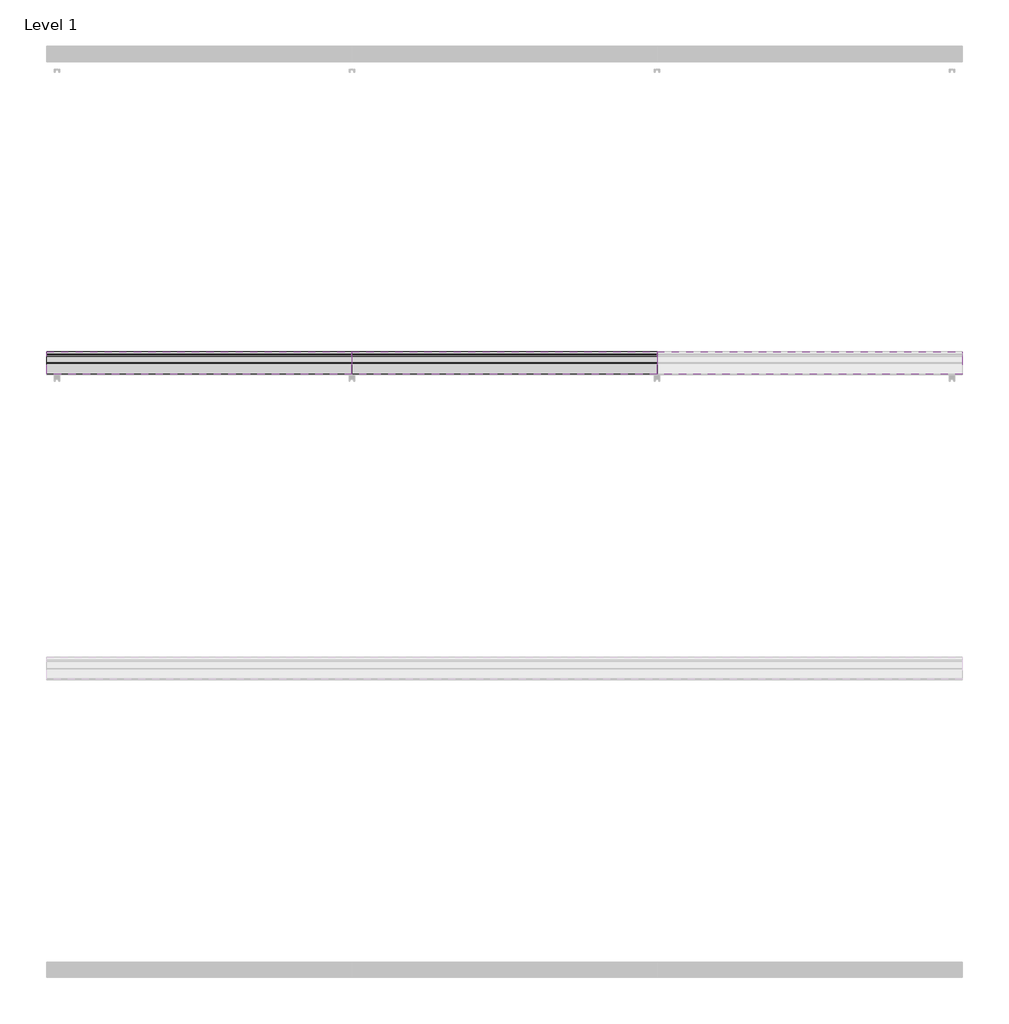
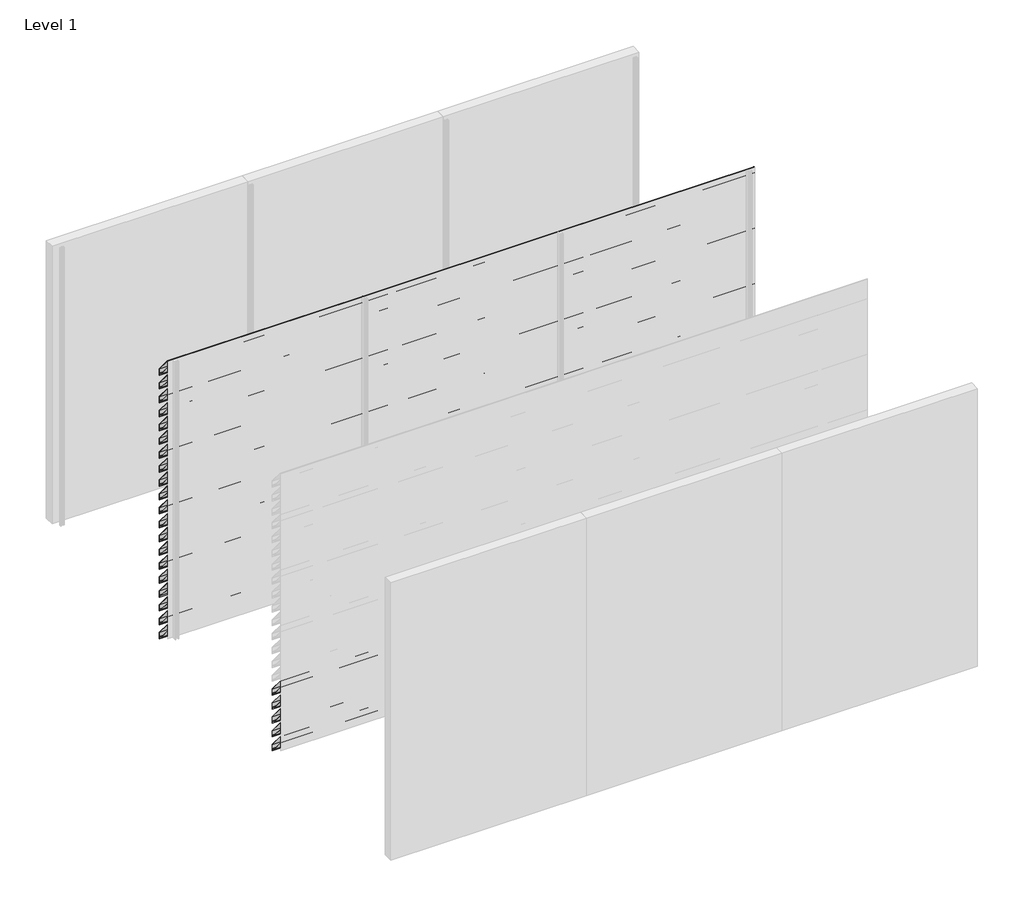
# One storey, part 13 of 16: 56 proxies.
"""IFC4 building model written with IfcOpenShell, lengths in millimetres."""

from ifc_helpers import new_model, si_unit, frame, origin, place, context, project, spatial, polyline, outline, extrude, element, save

model = new_model("IFC4")

# Units and contexts
model_context = context("Model", 3, world=origin())
ifc_project = project(units=[si_unit("LENGTHUNIT", "METRE", prefix="MILLI")], contexts=[model_context])

# Site, building, storey
site = spatial("IfcSite", under=ifc_project)
building = spatial("IfcBuilding", under=site)
storey = spatial("IfcBuildingStorey", under=building, Name="Level 1", Elevation=0.0)

# Proxies
placement = place(None, origin())
element("IfcBuildingElementProxy", 1, Name="Wall Sweeps", at=placement, inside=storey, context=model_context, shape_type="SweptSolid", body=[
    extrude(outline(polyline([(-11851.0, 2830.0), (-11851.0, 2761.0), (-11853.5, 2762.1657691), (-11853.5, 2775.7059843), (-11870.2498671, 2795.6676986), (-11880.9351065, 2795.6676986), (-11998.0, 2935.1802059), (-11998.0, 3000.0), (-11993.6469373, 3000.0), (-11851.0, 2830.0)]), holes=[polyline([(-11996.1, 2998.1), (-11996.1, 2935.8717493), (-11880.049122, 2797.5676986), (-11869.3638825, 2797.5676986), (-11852.9, 2777.9468074), (-11852.9, 2829.3084566), (-11994.5329219, 2998.1), (-11996.1, 2998.1)])]), frame((0.0, 0.0, 0.0), z_axis=(1.0, 0.0, 0.0), x_axis=(0.0, 1.0, 0.0)), (0.0, 0.0, 1.0), 2000.0),
])
element("IfcBuildingElementProxy", 2, Name="Wall Sweeps", at=placement, inside=storey, context=model_context, shape_type="SweptSolid", body=[
    extrude(outline(polyline([(-11851.0, 2680.0), (-11851.0, 2611.0), (-11853.5, 2612.1657691), (-11853.5, 2625.7059843), (-11870.2498671, 2645.6676986), (-11880.9351065, 2645.6676986), (-11998.0, 2785.1802059), (-11998.0, 2850.0), (-11993.6469373, 2850.0), (-11851.0, 2680.0)]), holes=[polyline([(-11996.1, 2848.1), (-11996.1, 2785.8717493), (-11880.049122, 2647.5676986), (-11869.3638825, 2647.5676986), (-11852.9, 2627.9468074), (-11852.9, 2679.3084566), (-11994.5329219, 2848.1), (-11996.1, 2848.1)])]), frame((0.0, 0.0, 0.0), z_axis=(1.0, 0.0, 0.0), x_axis=(0.0, 1.0, 0.0)), (0.0, 0.0, 1.0), 2000.0),
])
element("IfcBuildingElementProxy", 3, Name="Wall Sweeps", at=placement, inside=storey, context=model_context, shape_type="SweptSolid", body=[
    extrude(outline(polyline([(-11851.0, 2530.0), (-11851.0, 2461.0), (-11853.5, 2462.1657691), (-11853.5, 2475.7059843), (-11870.2498671, 2495.6676986), (-11880.9351065, 2495.6676986), (-11998.0, 2635.1802059), (-11998.0, 2700.0), (-11993.6469373, 2700.0), (-11851.0, 2530.0)]), holes=[polyline([(-11996.1, 2698.1), (-11996.1, 2635.8717493), (-11880.049122, 2497.5676986), (-11869.3638825, 2497.5676986), (-11852.9, 2477.9468074), (-11852.9, 2529.3084566), (-11994.5329219, 2698.1), (-11996.1, 2698.1)])]), frame((0.0, 0.0, 0.0), z_axis=(1.0, 0.0, 0.0), x_axis=(0.0, 1.0, 0.0)), (0.0, 0.0, 1.0), 2000.0),
])
element("IfcBuildingElementProxy", 4, Name="Wall Sweeps", at=placement, inside=storey, context=model_context, shape_type="SweptSolid", body=[
    extrude(outline(polyline([(-11851.0, 2380.0), (-11851.0, 2311.0), (-11853.5, 2312.1657691), (-11853.5, 2325.7059843), (-11870.2498671, 2345.6676986), (-11880.9351065, 2345.6676986), (-11998.0, 2485.1802059), (-11998.0, 2550.0), (-11993.6469373, 2550.0), (-11851.0, 2380.0)]), holes=[polyline([(-11996.1, 2548.1), (-11996.1, 2485.8717493), (-11880.049122, 2347.5676986), (-11869.3638825, 2347.5676986), (-11852.9, 2327.9468074), (-11852.9, 2379.3084566), (-11994.5329219, 2548.1), (-11996.1, 2548.1)])]), frame((0.0, 0.0, 0.0), z_axis=(1.0, 0.0, 0.0), x_axis=(0.0, 1.0, 0.0)), (0.0, 0.0, 1.0), 2000.0),
])
element("IfcBuildingElementProxy", 5, Name="Wall Sweeps", at=placement, inside=storey, context=model_context, shape_type="SweptSolid", body=[
    extrude(outline(polyline([(-11851.0, 2230.0), (-11851.0, 2161.0), (-11853.5, 2162.1657691), (-11853.5, 2175.7059843), (-11870.2498671, 2195.6676986), (-11880.9351065, 2195.6676986), (-11998.0, 2335.1802059), (-11998.0, 2400.0), (-11993.6469373, 2400.0), (-11851.0, 2230.0)]), holes=[polyline([(-11996.1, 2398.1), (-11996.1, 2335.8717493), (-11880.049122, 2197.5676986), (-11869.3638825, 2197.5676986), (-11852.9, 2177.9468074), (-11852.9, 2229.3084566), (-11994.5329219, 2398.1), (-11996.1, 2398.1)])]), frame((0.0, 0.0, 0.0), z_axis=(1.0, 0.0, 0.0), x_axis=(0.0, 1.0, 0.0)), (0.0, 0.0, 1.0), 2000.0),
])
element("IfcBuildingElementProxy", 6, Name="Wall Sweeps", at=placement, inside=storey, context=model_context, shape_type="SweptSolid", body=[
    extrude(outline(polyline([(-11851.0, 2080.0), (-11851.0, 2011.0), (-11853.5, 2012.1657691), (-11853.5, 2025.7059843), (-11870.2498671, 2045.6676986), (-11880.9351065, 2045.6676986), (-11998.0, 2185.1802059), (-11998.0, 2250.0), (-11993.6469373, 2250.0), (-11851.0, 2080.0)]), holes=[polyline([(-11996.1, 2248.1), (-11996.1, 2185.8717493), (-11880.049122, 2047.5676986), (-11869.3638825, 2047.5676986), (-11852.9, 2027.9468074), (-11852.9, 2079.3084566), (-11994.5329219, 2248.1), (-11996.1, 2248.1)])]), frame((0.0, 0.0, 0.0), z_axis=(1.0, 0.0, 0.0), x_axis=(0.0, 1.0, 0.0)), (0.0, 0.0, 1.0), 2000.0),
])
element("IfcBuildingElementProxy", 7, Name="Wall Sweeps", at=placement, inside=storey, context=model_context, shape_type="SweptSolid", body=[
    extrude(outline(polyline([(-11851.0, 1930.0), (-11851.0, 1861.0), (-11853.5, 1862.1657691), (-11853.5, 1875.7059843), (-11870.2498671, 1895.6676986), (-11880.9351065, 1895.6676986), (-11998.0, 2035.1802059), (-11998.0, 2100.0), (-11993.6469373, 2100.0), (-11851.0, 1930.0)]), holes=[polyline([(-11996.1, 2098.1), (-11996.1, 2035.8717493), (-11880.049122, 1897.5676986), (-11869.3638825, 1897.5676986), (-11852.9, 1877.9468074), (-11852.9, 1929.3084566), (-11994.5329219, 2098.1), (-11996.1, 2098.1)])]), frame((0.0, 0.0, 0.0), z_axis=(1.0, 0.0, 0.0), x_axis=(0.0, 1.0, 0.0)), (0.0, 0.0, 1.0), 2000.0),
])
element("IfcBuildingElementProxy", 8, Name="Wall Sweeps", at=placement, inside=storey, context=model_context, shape_type="SweptSolid", body=[
    extrude(outline(polyline([(-11851.0, 1780.0), (-11851.0, 1711.0), (-11853.5, 1712.1657691), (-11853.5, 1725.7059843), (-11870.2498671, 1745.6676986), (-11880.9351065, 1745.6676986), (-11998.0, 1885.1802059), (-11998.0, 1950.0), (-11993.6469373, 1950.0), (-11851.0, 1780.0)]), holes=[polyline([(-11996.1, 1948.1), (-11996.1, 1885.8717493), (-11880.049122, 1747.5676986), (-11869.3638825, 1747.5676986), (-11852.9, 1727.9468074), (-11852.9, 1779.3084566), (-11994.5329219, 1948.1), (-11996.1, 1948.1)])]), frame((0.0, 0.0, 0.0), z_axis=(1.0, 0.0, 0.0), x_axis=(0.0, 1.0, 0.0)), (0.0, 0.0, 1.0), 2000.0),
])
element("IfcBuildingElementProxy", 9, Name="Wall Sweeps", at=placement, inside=storey, context=model_context, shape_type="SweptSolid", body=[
    extrude(outline(polyline([(-11851.0, 1630.0), (-11851.0, 1561.0), (-11853.5, 1562.1657691), (-11853.5, 1575.7059843), (-11870.2498671, 1595.6676986), (-11880.9351065, 1595.6676986), (-11998.0, 1735.1802059), (-11998.0, 1800.0), (-11993.6469373, 1800.0), (-11851.0, 1630.0)]), holes=[polyline([(-11996.1, 1798.1), (-11996.1, 1735.8717493), (-11880.049122, 1597.5676986), (-11869.3638825, 1597.5676986), (-11852.9, 1577.9468074), (-11852.9, 1629.3084566), (-11994.5329219, 1798.1), (-11996.1, 1798.1)])]), frame((0.0, 0.0, 0.0), z_axis=(1.0, 0.0, 0.0), x_axis=(0.0, 1.0, 0.0)), (0.0, 0.0, 1.0), 2000.0),
])
element("IfcBuildingElementProxy", 10, Name="Wall Sweeps", at=placement, inside=storey, context=model_context, shape_type="SweptSolid", body=[
    extrude(outline(polyline([(-11851.0, 1480.0), (-11851.0, 1411.0), (-11853.5, 1412.1657691), (-11853.5, 1425.7059843), (-11870.2498671, 1445.6676986), (-11880.9351065, 1445.6676986), (-11998.0, 1585.1802059), (-11998.0, 1650.0), (-11993.6469373, 1650.0), (-11851.0, 1480.0)]), holes=[polyline([(-11996.1, 1648.1), (-11996.1, 1585.8717493), (-11880.049122, 1447.5676986), (-11869.3638825, 1447.5676986), (-11852.9, 1427.9468074), (-11852.9, 1479.3084566), (-11994.5329219, 1648.1), (-11996.1, 1648.1)])]), frame((0.0, 0.0, 0.0), z_axis=(1.0, 0.0, 0.0), x_axis=(0.0, 1.0, 0.0)), (0.0, 0.0, 1.0), 2000.0),
])
element("IfcBuildingElementProxy", 11, Name="Wall Sweeps", at=placement, inside=storey, context=model_context, shape_type="SweptSolid", body=[
    extrude(outline(polyline([(-11851.0, 1330.0), (-11851.0, 1261.0), (-11853.5, 1262.1657691), (-11853.5, 1275.7059843), (-11870.2498671, 1295.6676986), (-11880.9351065, 1295.6676986), (-11998.0, 1435.1802059), (-11998.0, 1500.0), (-11993.6469373, 1500.0), (-11851.0, 1330.0)]), holes=[polyline([(-11996.1, 1498.1), (-11996.1, 1435.8717493), (-11880.049122, 1297.5676986), (-11869.3638825, 1297.5676986), (-11852.9, 1277.9468074), (-11852.9, 1329.3084566), (-11994.5329219, 1498.1), (-11996.1, 1498.1)])]), frame((0.0, 0.0, 0.0), z_axis=(1.0, 0.0, 0.0), x_axis=(0.0, 1.0, 0.0)), (0.0, 0.0, 1.0), 2000.0),
])
element("IfcBuildingElementProxy", 12, Name="Wall Sweeps", at=placement, inside=storey, context=model_context, shape_type="SweptSolid", body=[
    extrude(outline(polyline([(-11851.0, 1180.0), (-11851.0, 1111.0), (-11853.5, 1112.1657691), (-11853.5, 1125.7059843), (-11870.2498671, 1145.6676986), (-11880.9351065, 1145.6676986), (-11998.0, 1285.1802059), (-11998.0, 1350.0), (-11993.6469373, 1350.0), (-11851.0, 1180.0)]), holes=[polyline([(-11996.1, 1348.1), (-11996.1, 1285.8717493), (-11880.049122, 1147.5676986), (-11869.3638825, 1147.5676986), (-11852.9, 1127.9468074), (-11852.9, 1179.3084566), (-11994.5329219, 1348.1), (-11996.1, 1348.1)])]), frame((0.0, 0.0, 0.0), z_axis=(1.0, 0.0, 0.0), x_axis=(0.0, 1.0, 0.0)), (0.0, 0.0, 1.0), 2000.0),
])
element("IfcBuildingElementProxy", 13, Name="Wall Sweeps", at=placement, inside=storey, context=model_context, shape_type="SweptSolid", body=[
    extrude(outline(polyline([(-11851.0, 1030.0), (-11851.0, 961.0), (-11853.5, 962.1657691), (-11853.5, 975.7059843), (-11870.2498671, 995.6676986), (-11880.9351065, 995.6676986), (-11998.0, 1135.1802059), (-11998.0, 1200.0), (-11993.6469373, 1200.0), (-11851.0, 1030.0)]), holes=[polyline([(-11996.1, 1198.1), (-11996.1, 1135.8717493), (-11880.049122, 997.5676986), (-11869.3638825, 997.5676986), (-11852.9, 977.9468074), (-11852.9, 1029.3084566), (-11994.5329219, 1198.1), (-11996.1, 1198.1)])]), frame((0.0, 0.0, 0.0), z_axis=(1.0, 0.0, 0.0), x_axis=(0.0, 1.0, 0.0)), (0.0, 0.0, 1.0), 2000.0),
])
element("IfcBuildingElementProxy", 14, Name="Wall Sweeps", at=placement, inside=storey, context=model_context, shape_type="SweptSolid", body=[
    extrude(outline(polyline([(-11851.0, 880.0), (-11851.0, 811.0), (-11853.5, 812.1657691), (-11853.5, 825.7059843), (-11870.2498671, 845.6676986), (-11880.9351065, 845.6676986), (-11998.0, 985.1802059), (-11998.0, 1050.0), (-11993.6469373, 1050.0), (-11851.0, 880.0)]), holes=[polyline([(-11996.1, 1048.1), (-11996.1, 985.8717493), (-11880.049122, 847.5676986), (-11869.3638825, 847.5676986), (-11852.9, 827.9468074), (-11852.9, 879.3084566), (-11994.5329219, 1048.1), (-11996.1, 1048.1)])]), frame((0.0, 0.0, 0.0), z_axis=(1.0, 0.0, 0.0), x_axis=(0.0, 1.0, 0.0)), (0.0, 0.0, 1.0), 2000.0),
])
element("IfcBuildingElementProxy", 15, Name="Wall Sweeps", at=placement, inside=storey, context=model_context, shape_type="SweptSolid", body=[
    extrude(outline(polyline([(-11851.0, 730.0), (-11851.0, 661.0), (-11853.5, 662.1657691), (-11853.5, 675.7059843), (-11870.2498671, 695.6676986), (-11880.9351065, 695.6676986), (-11998.0, 835.1802059), (-11998.0, 900.0), (-11993.6469373, 900.0), (-11851.0, 730.0)]), holes=[polyline([(-11996.1, 898.1), (-11996.1, 835.8717493), (-11880.049122, 697.5676986), (-11869.3638825, 697.5676986), (-11852.9, 677.9468074), (-11852.9, 729.3084566), (-11994.5329219, 898.1), (-11996.1, 898.1)])]), frame((0.0, 0.0, 0.0), z_axis=(1.0, 0.0, 0.0), x_axis=(0.0, 1.0, 0.0)), (0.0, 0.0, 1.0), 2000.0),
])
element("IfcBuildingElementProxy", 16, Name="Wall Sweeps", at=placement, inside=storey, context=model_context, shape_type="SweptSolid", body=[
    extrude(outline(polyline([(-11851.0, 580.0), (-11851.0, 511.0), (-11853.5, 512.1657691), (-11853.5, 525.7059843), (-11870.2498671, 545.6676986), (-11880.9351065, 545.6676986), (-11998.0, 685.1802059), (-11998.0, 750.0), (-11993.6469373, 750.0), (-11851.0, 580.0)]), holes=[polyline([(-11996.1, 748.1), (-11996.1, 685.8717493), (-11880.049122, 547.5676986), (-11869.3638825, 547.5676986), (-11852.9, 527.9468074), (-11852.9, 579.3084566), (-11994.5329219, 748.1), (-11996.1, 748.1)])]), frame((0.0, 0.0, 0.0), z_axis=(1.0, 0.0, 0.0), x_axis=(0.0, 1.0, 0.0)), (0.0, 0.0, 1.0), 2000.0),
])
element("IfcBuildingElementProxy", 17, Name="Wall Sweeps", at=placement, inside=storey, context=model_context, shape_type="SweptSolid", body=[
    extrude(outline(polyline([(-11851.0, 430.0), (-11851.0, 361.0), (-11853.5, 362.1657691), (-11853.5, 375.7059843), (-11870.2498671, 395.6676986), (-11880.9351065, 395.6676986), (-11998.0, 535.1802059), (-11998.0, 600.0), (-11993.6469373, 600.0), (-11851.0, 430.0)]), holes=[polyline([(-11996.1, 598.1), (-11996.1, 535.8717493), (-11880.049122, 397.5676986), (-11869.3638825, 397.5676986), (-11852.9, 377.9468074), (-11852.9, 429.3084566), (-11994.5329219, 598.1), (-11996.1, 598.1)])]), frame((0.0, 0.0, 0.0), z_axis=(1.0, 0.0, 0.0), x_axis=(0.0, 1.0, 0.0)), (0.0, 0.0, 1.0), 2000.0),
])
element("IfcBuildingElementProxy", 18, Name="Wall Sweeps", at=placement, inside=storey, context=model_context, shape_type="SweptSolid", body=[
    extrude(outline(polyline([(-11851.0, 280.0), (-11851.0, 211.0), (-11853.5, 212.1657691), (-11853.5, 225.7059843), (-11870.2498671, 245.6676986), (-11880.9351065, 245.6676986), (-11998.0, 385.1802059), (-11998.0, 450.0), (-11993.6469373, 450.0), (-11851.0, 280.0)]), holes=[polyline([(-11996.1, 448.1), (-11996.1, 385.8717493), (-11880.049122, 247.5676986), (-11869.3638825, 247.5676986), (-11852.9, 227.9468074), (-11852.9, 279.3084566), (-11994.5329219, 448.1), (-11996.1, 448.1)])]), frame((0.0, 0.0, 0.0), z_axis=(1.0, 0.0, 0.0), x_axis=(0.0, 1.0, 0.0)), (0.0, 0.0, 1.0), 2000.0),
])
element("IfcBuildingElementProxy", 19, Name="Wall Sweeps", at=placement, inside=storey, context=model_context, shape_type="SweptSolid", body=[
    extrude(outline(polyline([(-11851.0, 130.0), (-11851.0, 61.0), (-11853.5, 62.1657691), (-11853.5, 75.7059843), (-11870.2498671, 95.6676986), (-11880.9351065, 95.6676986), (-11998.0, 235.1802059), (-11998.0, 300.0), (-11993.6469373, 300.0), (-11851.0, 130.0)]), holes=[polyline([(-11996.1, 298.1), (-11996.1, 235.8717493), (-11880.049122, 97.5676986), (-11869.3638825, 97.5676986), (-11852.9, 77.9468074), (-11852.9, 129.3084566), (-11994.5329219, 298.1), (-11996.1, 298.1)])]), frame((0.0, 0.0, 0.0), z_axis=(1.0, 0.0, 0.0), x_axis=(0.0, 1.0, 0.0)), (0.0, 0.0, 1.0), 2000.0),
])
element("IfcBuildingElementProxy", 20, Name="Wall Sweeps", at=placement, inside=storey, context=model_context, shape_type="SweptSolid", body=[
    extrude(outline(polyline([(-11851.0, -20.0), (-11851.0, -89.0), (-11853.5, -87.8342309), (-11853.5, -74.2940157), (-11870.2498671, -54.3323014), (-11880.9351065, -54.3323014), (-11998.0, 85.1802059), (-11998.0, 150.0), (-11993.6469373, 150.0), (-11851.0, -20.0)]), holes=[polyline([(-11996.1, 148.1), (-11996.1, 85.8717493), (-11880.049122, -52.4323014), (-11869.3638825, -52.4323014), (-11852.9, -72.0531926), (-11852.9, -20.6915434), (-11994.5329219, 148.1), (-11996.1, 148.1)])]), frame((0.0, 0.0, 0.0), z_axis=(1.0, 0.0, 0.0), x_axis=(0.0, 1.0, 0.0)), (0.0, 0.0, 1.0), 2000.0),
])
element("IfcBuildingElementProxy", 21, Name="Wall Sweeps", at=placement, inside=storey, context=model_context, shape_type="SweptSolid", body=[
    extrude(outline(polyline([(-11851.0, 2830.0), (-11851.0, 2761.0), (-11853.5, 2762.1657691), (-11853.5, 2775.7059843), (-11870.2498671, 2795.6676986), (-11880.9351065, 2795.6676986), (-11998.0, 2935.1802059), (-11998.0, 3000.0), (-11993.6469373, 3000.0), (-11851.0, 2830.0)]), holes=[polyline([(-11996.1, 2998.1), (-11996.1, 2935.8717493), (-11880.049122, 2797.5676986), (-11869.3638825, 2797.5676986), (-11852.9, 2777.9468074), (-11852.9, 2829.3084566), (-11994.5329219, 2998.1), (-11996.1, 2998.1)])]), frame((2000.0, 0.0, 0.0), z_axis=(1.0, 0.0, 0.0), x_axis=(0.0, 1.0, 0.0)), (0.0, 0.0, 1.0), 2000.0),
])
element("IfcBuildingElementProxy", 22, Name="Wall Sweeps", at=placement, inside=storey, context=model_context, shape_type="SweptSolid", body=[
    extrude(outline(polyline([(-11851.0, 2680.0), (-11851.0, 2611.0), (-11853.5, 2612.1657691), (-11853.5, 2625.7059843), (-11870.2498671, 2645.6676986), (-11880.9351065, 2645.6676986), (-11998.0, 2785.1802059), (-11998.0, 2850.0), (-11993.6469373, 2850.0), (-11851.0, 2680.0)]), holes=[polyline([(-11996.1, 2848.1), (-11996.1, 2785.8717493), (-11880.049122, 2647.5676986), (-11869.3638825, 2647.5676986), (-11852.9, 2627.9468074), (-11852.9, 2679.3084566), (-11994.5329219, 2848.1), (-11996.1, 2848.1)])]), frame((2000.0, 0.0, 0.0), z_axis=(1.0, 0.0, 0.0), x_axis=(0.0, 1.0, 0.0)), (0.0, 0.0, 1.0), 2000.0),
])
element("IfcBuildingElementProxy", 23, Name="Wall Sweeps", at=placement, inside=storey, context=model_context, shape_type="SweptSolid", body=[
    extrude(outline(polyline([(-11851.0, 2530.0), (-11851.0, 2461.0), (-11853.5, 2462.1657691), (-11853.5, 2475.7059843), (-11870.2498671, 2495.6676986), (-11880.9351065, 2495.6676986), (-11998.0, 2635.1802059), (-11998.0, 2700.0), (-11993.6469373, 2700.0), (-11851.0, 2530.0)]), holes=[polyline([(-11996.1, 2698.1), (-11996.1, 2635.8717493), (-11880.049122, 2497.5676986), (-11869.3638825, 2497.5676986), (-11852.9, 2477.9468074), (-11852.9, 2529.3084566), (-11994.5329219, 2698.1), (-11996.1, 2698.1)])]), frame((2000.0, 0.0, 0.0), z_axis=(1.0, 0.0, 0.0), x_axis=(0.0, 1.0, 0.0)), (0.0, 0.0, 1.0), 2000.0),
])
element("IfcBuildingElementProxy", 24, Name="Wall Sweeps", at=placement, inside=storey, context=model_context, shape_type="SweptSolid", body=[
    extrude(outline(polyline([(-11851.0, 2380.0), (-11851.0, 2311.0), (-11853.5, 2312.1657691), (-11853.5, 2325.7059843), (-11870.2498671, 2345.6676986), (-11880.9351065, 2345.6676986), (-11998.0, 2485.1802059), (-11998.0, 2550.0), (-11993.6469373, 2550.0), (-11851.0, 2380.0)]), holes=[polyline([(-11996.1, 2548.1), (-11996.1, 2485.8717493), (-11880.049122, 2347.5676986), (-11869.3638825, 2347.5676986), (-11852.9, 2327.9468074), (-11852.9, 2379.3084566), (-11994.5329219, 2548.1), (-11996.1, 2548.1)])]), frame((2000.0, 0.0, 0.0), z_axis=(1.0, 0.0, 0.0), x_axis=(0.0, 1.0, 0.0)), (0.0, 0.0, 1.0), 2000.0),
])
element("IfcBuildingElementProxy", 25, Name="Wall Sweeps", at=placement, inside=storey, context=model_context, shape_type="SweptSolid", body=[
    extrude(outline(polyline([(-11851.0, 2230.0), (-11851.0, 2161.0), (-11853.5, 2162.1657691), (-11853.5, 2175.7059843), (-11870.2498671, 2195.6676986), (-11880.9351065, 2195.6676986), (-11998.0, 2335.1802059), (-11998.0, 2400.0), (-11993.6469373, 2400.0), (-11851.0, 2230.0)]), holes=[polyline([(-11996.1, 2398.1), (-11996.1, 2335.8717493), (-11880.049122, 2197.5676986), (-11869.3638825, 2197.5676986), (-11852.9, 2177.9468074), (-11852.9, 2229.3084566), (-11994.5329219, 2398.1), (-11996.1, 2398.1)])]), frame((2000.0, 0.0, 0.0), z_axis=(1.0, 0.0, 0.0), x_axis=(0.0, 1.0, 0.0)), (0.0, 0.0, 1.0), 2000.0),
])
element("IfcBuildingElementProxy", 26, Name="Wall Sweeps", at=placement, inside=storey, context=model_context, shape_type="SweptSolid", body=[
    extrude(outline(polyline([(-11851.0, 2080.0), (-11851.0, 2011.0), (-11853.5, 2012.1657691), (-11853.5, 2025.7059843), (-11870.2498671, 2045.6676986), (-11880.9351065, 2045.6676986), (-11998.0, 2185.1802059), (-11998.0, 2250.0), (-11993.6469373, 2250.0), (-11851.0, 2080.0)]), holes=[polyline([(-11996.1, 2248.1), (-11996.1, 2185.8717493), (-11880.049122, 2047.5676986), (-11869.3638825, 2047.5676986), (-11852.9, 2027.9468074), (-11852.9, 2079.3084566), (-11994.5329219, 2248.1), (-11996.1, 2248.1)])]), frame((2000.0, 0.0, 0.0), z_axis=(1.0, 0.0, 0.0), x_axis=(0.0, 1.0, 0.0)), (0.0, 0.0, 1.0), 2000.0),
])
element("IfcBuildingElementProxy", 27, Name="Wall Sweeps", at=placement, inside=storey, context=model_context, shape_type="SweptSolid", body=[
    extrude(outline(polyline([(-11851.0, 1930.0), (-11851.0, 1861.0), (-11853.5, 1862.1657691), (-11853.5, 1875.7059843), (-11870.2498671, 1895.6676986), (-11880.9351065, 1895.6676986), (-11998.0, 2035.1802059), (-11998.0, 2100.0), (-11993.6469373, 2100.0), (-11851.0, 1930.0)]), holes=[polyline([(-11996.1, 2098.1), (-11996.1, 2035.8717493), (-11880.049122, 1897.5676986), (-11869.3638825, 1897.5676986), (-11852.9, 1877.9468074), (-11852.9, 1929.3084566), (-11994.5329219, 2098.1), (-11996.1, 2098.1)])]), frame((2000.0, 0.0, 0.0), z_axis=(1.0, 0.0, 0.0), x_axis=(0.0, 1.0, 0.0)), (0.0, 0.0, 1.0), 2000.0),
])
element("IfcBuildingElementProxy", 28, Name="Wall Sweeps", at=placement, inside=storey, context=model_context, shape_type="SweptSolid", body=[
    extrude(outline(polyline([(-11851.0, 1780.0), (-11851.0, 1711.0), (-11853.5, 1712.1657691), (-11853.5, 1725.7059843), (-11870.2498671, 1745.6676986), (-11880.9351065, 1745.6676986), (-11998.0, 1885.1802059), (-11998.0, 1950.0), (-11993.6469373, 1950.0), (-11851.0, 1780.0)]), holes=[polyline([(-11996.1, 1948.1), (-11996.1, 1885.8717493), (-11880.049122, 1747.5676986), (-11869.3638825, 1747.5676986), (-11852.9, 1727.9468074), (-11852.9, 1779.3084566), (-11994.5329219, 1948.1), (-11996.1, 1948.1)])]), frame((2000.0, 0.0, 0.0), z_axis=(1.0, 0.0, 0.0), x_axis=(0.0, 1.0, 0.0)), (0.0, 0.0, 1.0), 2000.0),
])
element("IfcBuildingElementProxy", 29, Name="Wall Sweeps", at=placement, inside=storey, context=model_context, shape_type="SweptSolid", body=[
    extrude(outline(polyline([(-11851.0, 1630.0), (-11851.0, 1561.0), (-11853.5, 1562.1657691), (-11853.5, 1575.7059843), (-11870.2498671, 1595.6676986), (-11880.9351065, 1595.6676986), (-11998.0, 1735.1802059), (-11998.0, 1800.0), (-11993.6469373, 1800.0), (-11851.0, 1630.0)]), holes=[polyline([(-11996.1, 1798.1), (-11996.1, 1735.8717493), (-11880.049122, 1597.5676986), (-11869.3638825, 1597.5676986), (-11852.9, 1577.9468074), (-11852.9, 1629.3084566), (-11994.5329219, 1798.1), (-11996.1, 1798.1)])]), frame((2000.0, 0.0, 0.0), z_axis=(1.0, 0.0, 0.0), x_axis=(0.0, 1.0, 0.0)), (0.0, 0.0, 1.0), 2000.0),
])
element("IfcBuildingElementProxy", 30, Name="Wall Sweeps", at=placement, inside=storey, context=model_context, shape_type="SweptSolid", body=[
    extrude(outline(polyline([(-11851.0, 1480.0), (-11851.0, 1411.0), (-11853.5, 1412.1657691), (-11853.5, 1425.7059843), (-11870.2498671, 1445.6676986), (-11880.9351065, 1445.6676986), (-11998.0, 1585.1802059), (-11998.0, 1650.0), (-11993.6469373, 1650.0), (-11851.0, 1480.0)]), holes=[polyline([(-11996.1, 1648.1), (-11996.1, 1585.8717493), (-11880.049122, 1447.5676986), (-11869.3638825, 1447.5676986), (-11852.9, 1427.9468074), (-11852.9, 1479.3084566), (-11994.5329219, 1648.1), (-11996.1, 1648.1)])]), frame((2000.0, 0.0, 0.0), z_axis=(1.0, 0.0, 0.0), x_axis=(0.0, 1.0, 0.0)), (0.0, 0.0, 1.0), 2000.0),
])
element("IfcBuildingElementProxy", 31, Name="Wall Sweeps", at=placement, inside=storey, context=model_context, shape_type="SweptSolid", body=[
    extrude(outline(polyline([(-11851.0, 1330.0), (-11851.0, 1261.0), (-11853.5, 1262.1657691), (-11853.5, 1275.7059843), (-11870.2498671, 1295.6676986), (-11880.9351065, 1295.6676986), (-11998.0, 1435.1802059), (-11998.0, 1500.0), (-11993.6469373, 1500.0), (-11851.0, 1330.0)]), holes=[polyline([(-11996.1, 1498.1), (-11996.1, 1435.8717493), (-11880.049122, 1297.5676986), (-11869.3638825, 1297.5676986), (-11852.9, 1277.9468074), (-11852.9, 1329.3084566), (-11994.5329219, 1498.1), (-11996.1, 1498.1)])]), frame((2000.0, 0.0, 0.0), z_axis=(1.0, 0.0, 0.0), x_axis=(0.0, 1.0, 0.0)), (0.0, 0.0, 1.0), 2000.0),
])
element("IfcBuildingElementProxy", 32, Name="Wall Sweeps", at=placement, inside=storey, context=model_context, shape_type="SweptSolid", body=[
    extrude(outline(polyline([(-11851.0, 1180.0), (-11851.0, 1111.0), (-11853.5, 1112.1657691), (-11853.5, 1125.7059843), (-11870.2498671, 1145.6676986), (-11880.9351065, 1145.6676986), (-11998.0, 1285.1802059), (-11998.0, 1350.0), (-11993.6469373, 1350.0), (-11851.0, 1180.0)]), holes=[polyline([(-11996.1, 1348.1), (-11996.1, 1285.8717493), (-11880.049122, 1147.5676986), (-11869.3638825, 1147.5676986), (-11852.9, 1127.9468074), (-11852.9, 1179.3084566), (-11994.5329219, 1348.1), (-11996.1, 1348.1)])]), frame((2000.0, 0.0, 0.0), z_axis=(1.0, 0.0, 0.0), x_axis=(0.0, 1.0, 0.0)), (0.0, 0.0, 1.0), 2000.0),
])
element("IfcBuildingElementProxy", 33, Name="Wall Sweeps", at=placement, inside=storey, context=model_context, shape_type="SweptSolid", body=[
    extrude(outline(polyline([(-11851.0, 1030.0), (-11851.0, 961.0), (-11853.5, 962.1657691), (-11853.5, 975.7059843), (-11870.2498671, 995.6676986), (-11880.9351065, 995.6676986), (-11998.0, 1135.1802059), (-11998.0, 1200.0), (-11993.6469373, 1200.0), (-11851.0, 1030.0)]), holes=[polyline([(-11996.1, 1198.1), (-11996.1, 1135.8717493), (-11880.049122, 997.5676986), (-11869.3638825, 997.5676986), (-11852.9, 977.9468074), (-11852.9, 1029.3084566), (-11994.5329219, 1198.1), (-11996.1, 1198.1)])]), frame((2000.0, 0.0, 0.0), z_axis=(1.0, 0.0, 0.0), x_axis=(0.0, 1.0, 0.0)), (0.0, 0.0, 1.0), 2000.0),
])
element("IfcBuildingElementProxy", 34, Name="Wall Sweeps", at=placement, inside=storey, context=model_context, shape_type="SweptSolid", body=[
    extrude(outline(polyline([(-11851.0, 880.0), (-11851.0, 811.0), (-11853.5, 812.1657691), (-11853.5, 825.7059843), (-11870.2498671, 845.6676986), (-11880.9351065, 845.6676986), (-11998.0, 985.1802059), (-11998.0, 1050.0), (-11993.6469373, 1050.0), (-11851.0, 880.0)]), holes=[polyline([(-11996.1, 1048.1), (-11996.1, 985.8717493), (-11880.049122, 847.5676986), (-11869.3638825, 847.5676986), (-11852.9, 827.9468074), (-11852.9, 879.3084566), (-11994.5329219, 1048.1), (-11996.1, 1048.1)])]), frame((2000.0, 0.0, 0.0), z_axis=(1.0, 0.0, 0.0), x_axis=(0.0, 1.0, 0.0)), (0.0, 0.0, 1.0), 2000.0),
])
element("IfcBuildingElementProxy", 35, Name="Wall Sweeps", at=placement, inside=storey, context=model_context, shape_type="SweptSolid", body=[
    extrude(outline(polyline([(-11851.0, 730.0), (-11851.0, 661.0), (-11853.5, 662.1657691), (-11853.5, 675.7059843), (-11870.2498671, 695.6676986), (-11880.9351065, 695.6676986), (-11998.0, 835.1802059), (-11998.0, 900.0), (-11993.6469373, 900.0), (-11851.0, 730.0)]), holes=[polyline([(-11996.1, 898.1), (-11996.1, 835.8717493), (-11880.049122, 697.5676986), (-11869.3638825, 697.5676986), (-11852.9, 677.9468074), (-11852.9, 729.3084566), (-11994.5329219, 898.1), (-11996.1, 898.1)])]), frame((2000.0, 0.0, 0.0), z_axis=(1.0, 0.0, 0.0), x_axis=(0.0, 1.0, 0.0)), (0.0, 0.0, 1.0), 2000.0),
])
element("IfcBuildingElementProxy", 36, Name="Wall Sweeps", at=placement, inside=storey, context=model_context, shape_type="SweptSolid", body=[
    extrude(outline(polyline([(-11851.0, 580.0), (-11851.0, 511.0), (-11853.5, 512.1657691), (-11853.5, 525.7059843), (-11870.2498671, 545.6676986), (-11880.9351065, 545.6676986), (-11998.0, 685.1802059), (-11998.0, 750.0), (-11993.6469373, 750.0), (-11851.0, 580.0)]), holes=[polyline([(-11996.1, 748.1), (-11996.1, 685.8717493), (-11880.049122, 547.5676986), (-11869.3638825, 547.5676986), (-11852.9, 527.9468074), (-11852.9, 579.3084566), (-11994.5329219, 748.1), (-11996.1, 748.1)])]), frame((2000.0, 0.0, 0.0), z_axis=(1.0, 0.0, 0.0), x_axis=(0.0, 1.0, 0.0)), (0.0, 0.0, 1.0), 2000.0),
])
element("IfcBuildingElementProxy", 37, Name="Wall Sweeps", at=placement, inside=storey, context=model_context, shape_type="SweptSolid", body=[
    extrude(outline(polyline([(-11851.0, 430.0), (-11851.0, 361.0), (-11853.5, 362.1657691), (-11853.5, 375.7059843), (-11870.2498671, 395.6676986), (-11880.9351065, 395.6676986), (-11998.0, 535.1802059), (-11998.0, 600.0), (-11993.6469373, 600.0), (-11851.0, 430.0)]), holes=[polyline([(-11996.1, 598.1), (-11996.1, 535.8717493), (-11880.049122, 397.5676986), (-11869.3638825, 397.5676986), (-11852.9, 377.9468074), (-11852.9, 429.3084566), (-11994.5329219, 598.1), (-11996.1, 598.1)])]), frame((2000.0, 0.0, 0.0), z_axis=(1.0, 0.0, 0.0), x_axis=(0.0, 1.0, 0.0)), (0.0, 0.0, 1.0), 2000.0),
])
element("IfcBuildingElementProxy", 38, Name="Wall Sweeps", at=placement, inside=storey, context=model_context, shape_type="SweptSolid", body=[
    extrude(outline(polyline([(-11851.0, 280.0), (-11851.0, 211.0), (-11853.5, 212.1657691), (-11853.5, 225.7059843), (-11870.2498671, 245.6676986), (-11880.9351065, 245.6676986), (-11998.0, 385.1802059), (-11998.0, 450.0), (-11993.6469373, 450.0), (-11851.0, 280.0)]), holes=[polyline([(-11996.1, 448.1), (-11996.1, 385.8717493), (-11880.049122, 247.5676986), (-11869.3638825, 247.5676986), (-11852.9, 227.9468074), (-11852.9, 279.3084566), (-11994.5329219, 448.1), (-11996.1, 448.1)])]), frame((2000.0, 0.0, 0.0), z_axis=(1.0, 0.0, 0.0), x_axis=(0.0, 1.0, 0.0)), (0.0, 0.0, 1.0), 2000.0),
])
element("IfcBuildingElementProxy", 39, Name="Wall Sweeps", at=placement, inside=storey, context=model_context, shape_type="SweptSolid", body=[
    extrude(outline(polyline([(-11851.0, 130.0), (-11851.0, 61.0), (-11853.5, 62.1657691), (-11853.5, 75.7059843), (-11870.2498671, 95.6676986), (-11880.9351065, 95.6676986), (-11998.0, 235.1802059), (-11998.0, 300.0), (-11993.6469373, 300.0), (-11851.0, 130.0)]), holes=[polyline([(-11996.1, 298.1), (-11996.1, 235.8717493), (-11880.049122, 97.5676986), (-11869.3638825, 97.5676986), (-11852.9, 77.9468074), (-11852.9, 129.3084566), (-11994.5329219, 298.1), (-11996.1, 298.1)])]), frame((2000.0, 0.0, 0.0), z_axis=(1.0, 0.0, 0.0), x_axis=(0.0, 1.0, 0.0)), (0.0, 0.0, 1.0), 2000.0),
])
element("IfcBuildingElementProxy", 40, Name="Wall Sweeps", at=placement, inside=storey, context=model_context, shape_type="SweptSolid", body=[
    extrude(outline(polyline([(-11851.0, -20.0), (-11851.0, -89.0), (-11853.5, -87.8342309), (-11853.5, -74.2940157), (-11870.2498671, -54.3323014), (-11880.9351065, -54.3323014), (-11998.0, 85.1802059), (-11998.0, 150.0), (-11993.6469373, 150.0), (-11851.0, -20.0)]), holes=[polyline([(-11996.1, 148.1), (-11996.1, 85.8717493), (-11880.049122, -52.4323014), (-11869.3638825, -52.4323014), (-11852.9, -72.0531926), (-11852.9, -20.6915434), (-11994.5329219, 148.1), (-11996.1, 148.1)])]), frame((2000.0, 0.0, 0.0), z_axis=(1.0, 0.0, 0.0), x_axis=(0.0, 1.0, 0.0)), (0.0, 0.0, 1.0), 2000.0),
])
element("IfcBuildingElementProxy", 41, Name="Wall Sweeps", at=placement, inside=storey, context=model_context, shape_type="SweptSolid", body=[
    extrude(outline(polyline([(-11851.0, 2830.0), (-11851.0, 2761.0), (-11853.5, 2762.1657691), (-11853.5, 2775.7059843), (-11870.2498671, 2795.6676986), (-11880.9351065, 2795.6676986), (-11998.0, 2935.1802059), (-11998.0, 3000.0), (-11993.6469373, 3000.0), (-11851.0, 2830.0)]), holes=[polyline([(-11996.1, 2998.1), (-11996.1, 2935.8717493), (-11880.049122, 2797.5676986), (-11869.3638825, 2797.5676986), (-11852.9, 2777.9468074), (-11852.9, 2829.3084566), (-11994.5329219, 2998.1), (-11996.1, 2998.1)])]), frame((4000.0, 0.0, 0.0), z_axis=(1.0, 0.0, 0.0), x_axis=(0.0, 1.0, 0.0)), (0.0, 0.0, 1.0), 2000.0),
])
element("IfcBuildingElementProxy", 42, Name="Wall Sweeps", at=placement, inside=storey, context=model_context, shape_type="SweptSolid", body=[
    extrude(outline(polyline([(-11851.0, 2680.0), (-11851.0, 2611.0), (-11853.5, 2612.1657691), (-11853.5, 2625.7059843), (-11870.2498671, 2645.6676986), (-11880.9351065, 2645.6676986), (-11998.0, 2785.1802059), (-11998.0, 2850.0), (-11993.6469373, 2850.0), (-11851.0, 2680.0)]), holes=[polyline([(-11996.1, 2848.1), (-11996.1, 2785.8717493), (-11880.049122, 2647.5676986), (-11869.3638825, 2647.5676986), (-11852.9, 2627.9468074), (-11852.9, 2679.3084566), (-11994.5329219, 2848.1), (-11996.1, 2848.1)])]), frame((4000.0, 0.0, 0.0), z_axis=(1.0, 0.0, 0.0), x_axis=(0.0, 1.0, 0.0)), (0.0, 0.0, 1.0), 2000.0),
])
element("IfcBuildingElementProxy", 43, Name="Wall Sweeps", at=placement, inside=storey, context=model_context, shape_type="SweptSolid", body=[
    extrude(outline(polyline([(-11851.0, 2530.0), (-11851.0, 2461.0), (-11853.5, 2462.1657691), (-11853.5, 2475.7059843), (-11870.2498671, 2495.6676986), (-11880.9351065, 2495.6676986), (-11998.0, 2635.1802059), (-11998.0, 2700.0), (-11993.6469373, 2700.0), (-11851.0, 2530.0)]), holes=[polyline([(-11996.1, 2698.1), (-11996.1, 2635.8717493), (-11880.049122, 2497.5676986), (-11869.3638825, 2497.5676986), (-11852.9, 2477.9468074), (-11852.9, 2529.3084566), (-11994.5329219, 2698.1), (-11996.1, 2698.1)])]), frame((4000.0, 0.0, 0.0), z_axis=(1.0, 0.0, 0.0), x_axis=(0.0, 1.0, 0.0)), (0.0, 0.0, 1.0), 2000.0),
])
element("IfcBuildingElementProxy", 44, Name="Wall Sweeps", at=placement, inside=storey, context=model_context, shape_type="SweptSolid", body=[
    extrude(outline(polyline([(-11851.0, 2380.0), (-11851.0, 2311.0), (-11853.5, 2312.1657691), (-11853.5, 2325.7059843), (-11870.2498671, 2345.6676986), (-11880.9351065, 2345.6676986), (-11998.0, 2485.1802059), (-11998.0, 2550.0), (-11993.6469373, 2550.0), (-11851.0, 2380.0)]), holes=[polyline([(-11996.1, 2548.1), (-11996.1, 2485.8717493), (-11880.049122, 2347.5676986), (-11869.3638825, 2347.5676986), (-11852.9, 2327.9468074), (-11852.9, 2379.3084566), (-11994.5329219, 2548.1), (-11996.1, 2548.1)])]), frame((4000.0, 0.0, 0.0), z_axis=(1.0, 0.0, 0.0), x_axis=(0.0, 1.0, 0.0)), (0.0, 0.0, 1.0), 2000.0),
])
element("IfcBuildingElementProxy", 45, Name="Wall Sweeps", at=placement, inside=storey, context=model_context, shape_type="SweptSolid", body=[
    extrude(outline(polyline([(-11851.0, 2230.0), (-11851.0, 2161.0), (-11853.5, 2162.1657691), (-11853.5, 2175.7059843), (-11870.2498671, 2195.6676986), (-11880.9351065, 2195.6676986), (-11998.0, 2335.1802059), (-11998.0, 2400.0), (-11993.6469373, 2400.0), (-11851.0, 2230.0)]), holes=[polyline([(-11996.1, 2398.1), (-11996.1, 2335.8717493), (-11880.049122, 2197.5676986), (-11869.3638825, 2197.5676986), (-11852.9, 2177.9468074), (-11852.9, 2229.3084566), (-11994.5329219, 2398.1), (-11996.1, 2398.1)])]), frame((4000.0, 0.0, 0.0), z_axis=(1.0, 0.0, 0.0), x_axis=(0.0, 1.0, 0.0)), (0.0, 0.0, 1.0), 2000.0),
])
element("IfcBuildingElementProxy", 46, Name="Wall Sweeps", at=placement, inside=storey, context=model_context, shape_type="SweptSolid", body=[
    extrude(outline(polyline([(-11851.0, 2080.0), (-11851.0, 2011.0), (-11853.5, 2012.1657691), (-11853.5, 2025.7059843), (-11870.2498671, 2045.6676986), (-11880.9351065, 2045.6676986), (-11998.0, 2185.1802059), (-11998.0, 2250.0), (-11993.6469373, 2250.0), (-11851.0, 2080.0)]), holes=[polyline([(-11996.1, 2248.1), (-11996.1, 2185.8717493), (-11880.049122, 2047.5676986), (-11869.3638825, 2047.5676986), (-11852.9, 2027.9468074), (-11852.9, 2079.3084566), (-11994.5329219, 2248.1), (-11996.1, 2248.1)])]), frame((4000.0, 0.0, 0.0), z_axis=(1.0, 0.0, 0.0), x_axis=(0.0, 1.0, 0.0)), (0.0, 0.0, 1.0), 2000.0),
])
element("IfcBuildingElementProxy", 47, Name="Wall Sweeps", at=placement, inside=storey, context=model_context, shape_type="SweptSolid", body=[
    extrude(outline(polyline([(-11851.0, 1930.0), (-11851.0, 1861.0), (-11853.5, 1862.1657691), (-11853.5, 1875.7059843), (-11870.2498671, 1895.6676986), (-11880.9351065, 1895.6676986), (-11998.0, 2035.1802059), (-11998.0, 2100.0), (-11993.6469373, 2100.0), (-11851.0, 1930.0)]), holes=[polyline([(-11996.1, 2098.1), (-11996.1, 2035.8717493), (-11880.049122, 1897.5676986), (-11869.3638825, 1897.5676986), (-11852.9, 1877.9468074), (-11852.9, 1929.3084566), (-11994.5329219, 2098.1), (-11996.1, 2098.1)])]), frame((4000.0, 0.0, 0.0), z_axis=(1.0, 0.0, 0.0), x_axis=(0.0, 1.0, 0.0)), (0.0, 0.0, 1.0), 2000.0),
])
element("IfcBuildingElementProxy", 48, Name="Wall Sweeps", at=placement, inside=storey, context=model_context, shape_type="SweptSolid", body=[
    extrude(outline(polyline([(-11851.0, 1780.0), (-11851.0, 1711.0), (-11853.5, 1712.1657691), (-11853.5, 1725.7059843), (-11870.2498671, 1745.6676986), (-11880.9351065, 1745.6676986), (-11998.0, 1885.1802059), (-11998.0, 1950.0), (-11993.6469373, 1950.0), (-11851.0, 1780.0)]), holes=[polyline([(-11996.1, 1948.1), (-11996.1, 1885.8717493), (-11880.049122, 1747.5676986), (-11869.3638825, 1747.5676986), (-11852.9, 1727.9468074), (-11852.9, 1779.3084566), (-11994.5329219, 1948.1), (-11996.1, 1948.1)])]), frame((4000.0, 0.0, 0.0), z_axis=(1.0, 0.0, 0.0), x_axis=(0.0, 1.0, 0.0)), (0.0, 0.0, 1.0), 2000.0),
])
element("IfcBuildingElementProxy", 49, Name="Wall Sweeps", at=placement, inside=storey, context=model_context, shape_type="SweptSolid", body=[
    extrude(outline(polyline([(-11851.0, 1630.0), (-11851.0, 1561.0), (-11853.5, 1562.1657691), (-11853.5, 1575.7059843), (-11870.2498671, 1595.6676986), (-11880.9351065, 1595.6676986), (-11998.0, 1735.1802059), (-11998.0, 1800.0), (-11993.6469373, 1800.0), (-11851.0, 1630.0)]), holes=[polyline([(-11996.1, 1798.1), (-11996.1, 1735.8717493), (-11880.049122, 1597.5676986), (-11869.3638825, 1597.5676986), (-11852.9, 1577.9468074), (-11852.9, 1629.3084566), (-11994.5329219, 1798.1), (-11996.1, 1798.1)])]), frame((4000.0, 0.0, 0.0), z_axis=(1.0, 0.0, 0.0), x_axis=(0.0, 1.0, 0.0)), (0.0, 0.0, 1.0), 2000.0),
])
element("IfcBuildingElementProxy", 50, Name="Wall Sweeps", at=placement, inside=storey, context=model_context, shape_type="SweptSolid", body=[
    extrude(outline(polyline([(-11851.0, 1480.0), (-11851.0, 1411.0), (-11853.5, 1412.1657691), (-11853.5, 1425.7059843), (-11870.2498671, 1445.6676986), (-11880.9351065, 1445.6676986), (-11998.0, 1585.1802059), (-11998.0, 1650.0), (-11993.6469373, 1650.0), (-11851.0, 1480.0)]), holes=[polyline([(-11996.1, 1648.1), (-11996.1, 1585.8717493), (-11880.049122, 1447.5676986), (-11869.3638825, 1447.5676986), (-11852.9, 1427.9468074), (-11852.9, 1479.3084566), (-11994.5329219, 1648.1), (-11996.1, 1648.1)])]), frame((4000.0, 0.0, 0.0), z_axis=(1.0, 0.0, 0.0), x_axis=(0.0, 1.0, 0.0)), (0.0, 0.0, 1.0), 2000.0),
])
element("IfcBuildingElementProxy", 51, Name="Wall Sweeps", at=placement, inside=storey, context=model_context, shape_type="SweptSolid", body=[
    extrude(outline(polyline([(-11851.0, 1330.0), (-11851.0, 1261.0), (-11853.5, 1262.1657691), (-11853.5, 1275.7059843), (-11870.2498671, 1295.6676986), (-11880.9351065, 1295.6676986), (-11998.0, 1435.1802059), (-11998.0, 1500.0), (-11993.6469373, 1500.0), (-11851.0, 1330.0)]), holes=[polyline([(-11996.1, 1498.1), (-11996.1, 1435.8717493), (-11880.049122, 1297.5676986), (-11869.3638825, 1297.5676986), (-11852.9, 1277.9468074), (-11852.9, 1329.3084566), (-11994.5329219, 1498.1), (-11996.1, 1498.1)])]), frame((4000.0, 0.0, 0.0), z_axis=(1.0, 0.0, 0.0), x_axis=(0.0, 1.0, 0.0)), (0.0, 0.0, 1.0), 2000.0),
])
element("IfcBuildingElementProxy", 52, Name="Wall Sweeps", at=placement, inside=storey, context=model_context, shape_type="SweptSolid", body=[
    extrude(outline(polyline([(-13851.0, 580.0), (-13851.0, 511.0), (-13853.5, 512.1657691), (-13853.5, 525.7059843), (-13870.2498671, 545.6676986), (-13880.9351065, 545.6676986), (-13998.0, 685.1802059), (-13998.0, 750.0), (-13993.6469373, 750.0), (-13851.0, 580.0)]), holes=[polyline([(-13996.1, 748.1), (-13996.1, 685.8717493), (-13880.049122, 547.5676986), (-13869.3638825, 547.5676986), (-13852.9, 527.9468074), (-13852.9, 579.3084566), (-13994.5329219, 748.1), (-13996.1, 748.1)])]), frame((0.0, 0.0, 0.0), z_axis=(1.0, 0.0, 0.0), x_axis=(0.0, 1.0, 0.0)), (0.0, 0.0, 1.0), 6000.0),
])
element("IfcBuildingElementProxy", 53, Name="Wall Sweeps", at=placement, inside=storey, context=model_context, shape_type="SweptSolid", body=[
    extrude(outline(polyline([(-13851.0, 430.0), (-13851.0, 361.0), (-13853.5, 362.1657691), (-13853.5, 375.7059843), (-13870.2498671, 395.6676986), (-13880.9351065, 395.6676986), (-13998.0, 535.1802059), (-13998.0, 600.0), (-13993.6469373, 600.0), (-13851.0, 430.0)]), holes=[polyline([(-13996.1, 598.1), (-13996.1, 535.8717493), (-13880.049122, 397.5676986), (-13869.3638825, 397.5676986), (-13852.9, 377.9468074), (-13852.9, 429.3084566), (-13994.5329219, 598.1), (-13996.1, 598.1)])]), frame((0.0, 0.0, 0.0), z_axis=(1.0, 0.0, 0.0), x_axis=(0.0, 1.0, 0.0)), (0.0, 0.0, 1.0), 6000.0),
])
element("IfcBuildingElementProxy", 54, Name="Wall Sweeps", at=placement, inside=storey, context=model_context, shape_type="SweptSolid", body=[
    extrude(outline(polyline([(-13851.0, 280.0), (-13851.0, 211.0), (-13853.5, 212.1657691), (-13853.5, 225.7059843), (-13870.2498671, 245.6676986), (-13880.9351065, 245.6676986), (-13998.0, 385.1802059), (-13998.0, 450.0), (-13993.6469373, 450.0), (-13851.0, 280.0)]), holes=[polyline([(-13996.1, 448.1), (-13996.1, 385.8717493), (-13880.049122, 247.5676986), (-13869.3638825, 247.5676986), (-13852.9, 227.9468074), (-13852.9, 279.3084566), (-13994.5329219, 448.1), (-13996.1, 448.1)])]), frame((0.0, 0.0, 0.0), z_axis=(1.0, 0.0, 0.0), x_axis=(0.0, 1.0, 0.0)), (0.0, 0.0, 1.0), 6000.0),
])
element("IfcBuildingElementProxy", 55, Name="Wall Sweeps", at=placement, inside=storey, context=model_context, shape_type="SweptSolid", body=[
    extrude(outline(polyline([(-13851.0, 130.0), (-13851.0, 61.0), (-13853.5, 62.1657691), (-13853.5, 75.7059843), (-13870.2498671, 95.6676986), (-13880.9351065, 95.6676986), (-13998.0, 235.1802059), (-13998.0, 300.0), (-13993.6469373, 300.0), (-13851.0, 130.0)]), holes=[polyline([(-13996.1, 298.1), (-13996.1, 235.8717493), (-13880.049122, 97.5676986), (-13869.3638825, 97.5676986), (-13852.9, 77.9468074), (-13852.9, 129.3084566), (-13994.5329219, 298.1), (-13996.1, 298.1)])]), frame((0.0, 0.0, 0.0), z_axis=(1.0, 0.0, 0.0), x_axis=(0.0, 1.0, 0.0)), (0.0, 0.0, 1.0), 6000.0),
])
element("IfcBuildingElementProxy", 56, Name="Wall Sweeps", at=placement, inside=storey, context=model_context, shape_type="SweptSolid", body=[
    extrude(outline(polyline([(-13851.0, -20.0), (-13851.0, -89.0), (-13853.5, -87.8342309), (-13853.5, -74.2940157), (-13870.2498671, -54.3323014), (-13880.9351065, -54.3323014), (-13998.0, 85.1802059), (-13998.0, 150.0), (-13993.6469373, 150.0), (-13851.0, -20.0)]), holes=[polyline([(-13996.1, 148.1), (-13996.1, 85.8717493), (-13880.049122, -52.4323014), (-13869.3638825, -52.4323014), (-13852.9, -72.0531926), (-13852.9, -20.6915434), (-13994.5329219, 148.1), (-13996.1, 148.1)])]), frame((0.0, 0.0, 0.0), z_axis=(1.0, 0.0, 0.0), x_axis=(0.0, 1.0, 0.0)), (0.0, 0.0, 1.0), 6000.0),
])

save(model, "model.ifc")
